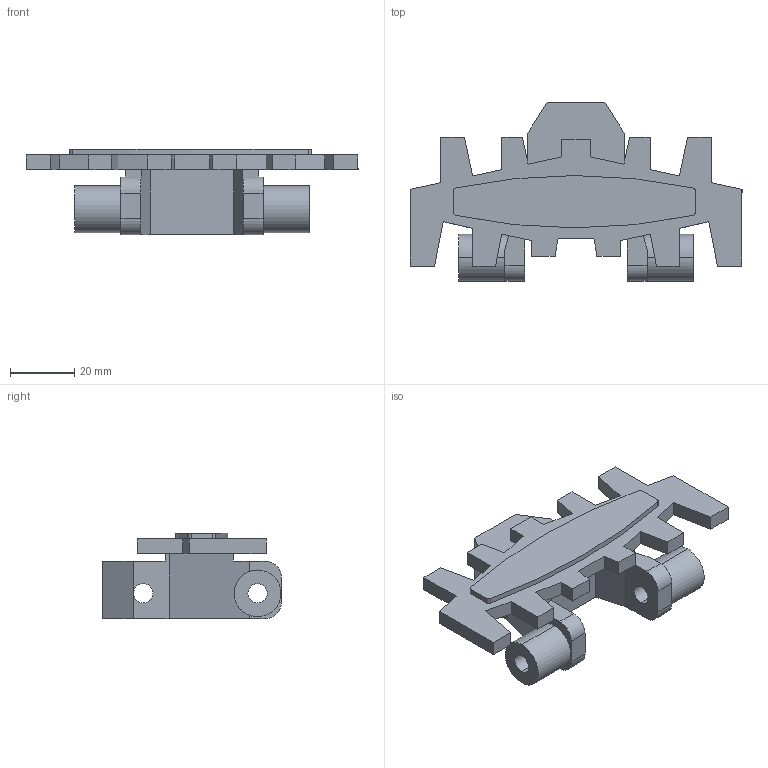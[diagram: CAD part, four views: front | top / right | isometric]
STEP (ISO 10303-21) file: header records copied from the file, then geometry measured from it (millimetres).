
FILE_DESCRIPTION (( 'STEP AP214' ), '1' );
FILE_NAME ('FCFT-5.STEP', '2011-07-04T12:11:46', ( '.' ), ( '' ), 'SwSTEP 2.0', 'SolidWorks 2010', '' );
FILE_SCHEMA (( 'AUTOMOTIVE_DESIGN' ));
Length unit declared in the file: millimetre
Products named in the file (1): FCFT-5
Bounding box: 103 x 55.39 x 26.45 mm (x, y, z)
Volume: 39497.2 mm3; surface area: 15959.4 mm2
Topology: 1 solids, 1 shells, 94 faces, 270 edges, 180 vertices
Faces by surface type: plane 74, cylinder 20
Entity records: 3102 total; most frequent: CARTESIAN_POINT 551, ORIENTED_EDGE 540, DIRECTION 500, EDGE_CURVE 270, VECTOR 226, LINE 226, VERTEX_POINT 180, AXIS2_PLACEMENT_3D 137
